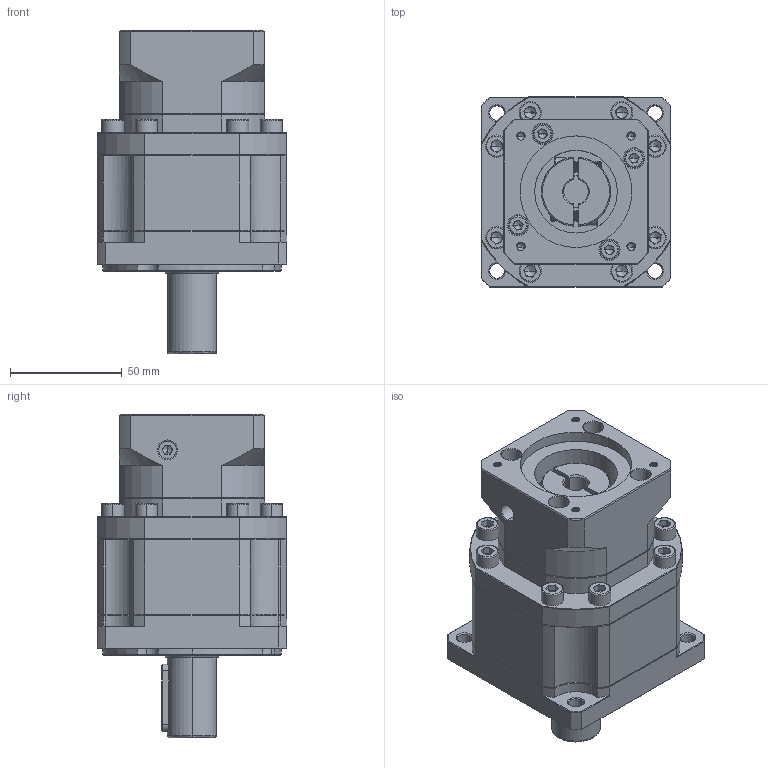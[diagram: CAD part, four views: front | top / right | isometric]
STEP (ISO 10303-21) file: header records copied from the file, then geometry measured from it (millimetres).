
FILE_DESCRIPTION (( 'STEP AP214' ), '1' );
FILE_NAME ('ZB90-D22-L2-11-50-70-M4.STEP', '2022-05-02T15:15:23', ( '' ), ( 'Microsoft' ), 'SwSTEP 2.0', 'SolidWorks 2016', '' );
FILE_SCHEMA (( 'AUTOMOTIVE_DESIGN' ));
Length unit declared in the file: millimetre
Products named in the file (1): ZB90-D22-L2-11-50-70-M4
Bounding box: 85 x 85 x 145 mm (x, y, z)
Volume: 545673.9 mm3; surface area: 76496.6 mm2
Topology: 6 solids, 6 shells, 2070 faces, 5426 edges, 3447 vertices
Faces by surface type: plane 1005, cylinder 394, bspline 328, cone 321, torus 22
Entity records: 107189 total; most frequent: CARTESIAN_POINT 36097, ORIENTED_EDGE 10760, DIRECTION 8901, EDGE_CURVE 5380, VERTEX_POINT 3447, VECTOR 3301, LINE 3301, AXIS2_PLACEMENT_3D 2800
